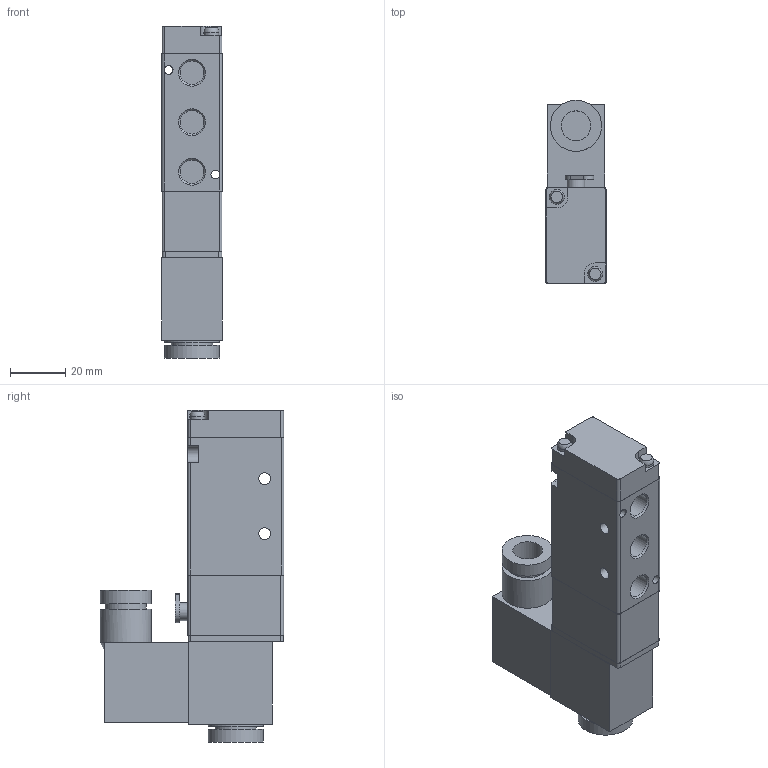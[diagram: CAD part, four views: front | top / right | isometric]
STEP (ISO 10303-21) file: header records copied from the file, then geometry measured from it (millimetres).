
FILE_DESCRIPTION( ( 'STEP AP214' ), '1' );
FILE_NAME( 'C:/Users/emc02044/Desktop/RV五通/RV5221-06QE7.stp', '2026-07-31T04:16:20', ( 'License CC BY-ND 4.0' ), ( 'CADENAS' ), ' ', 'PARTsolutions', ' ' );
FILE_SCHEMA( ( 'AUTOMOTIVE_DESIGN { 1 0 10303 214 1 1 1 1 }' ) );
Length unit declared in the file: millimetre
Products named in the file (1): _RV5221-06QE7
Bounding box: 22 x 66.8 x 120.7 mm (x, y, z)
Volume: 103849.4 mm3; surface area: 22568.4 mm2
Topology: 1 solids, 1 shells, 115 faces, 277 edges, 181 vertices
Faces by surface type: plane 64, cylinder 43, cone 6, sphere 2
Full cylindrical faces by diameter (mm): 3.2 x2, 4.3 x2, 5.4 x2, 6.5 x1, 8.566 x5, 10.8 x1, 15 x2, 18.6 x2, 20 x2
Entity records: 4171 total; most frequent: CARTESIAN_POINT 579, DIRECTION 571, ORIENTED_EDGE 492, EDGE_CURVE 246, AXIS2_PLACEMENT_3D 212, VERTEX_POINT 176, EDGE_LOOP 166, LINE 147
